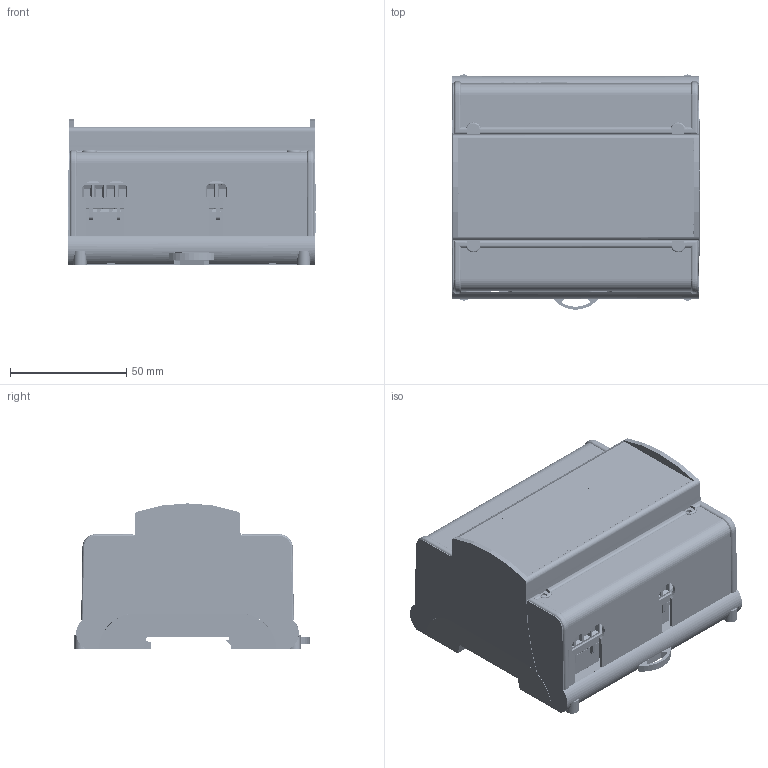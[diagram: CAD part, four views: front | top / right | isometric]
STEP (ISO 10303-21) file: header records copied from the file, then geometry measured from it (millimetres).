
FILE_DESCRIPTION(/* description */ (''),/* implementation_level */ '2;1');
FILE_NAME(/* name */ 'C:/Temp/STEP/multiLINK_V131.step',/* time_stamp */ '2020-04-03T14:09:29+03:00',/* author */ (''),/* organization */ (''),/* preprocessor_version */ 'ST-DEVELOPER v18',/* originating_system */ 'Autodesk Translation Framework v8.12.0.6',/* authorisation */ '');
FILE_SCHEMA (('AUTOMOTIVE_DESIGN { 1 0 10303 214 3 1 1 }'));
Products named in the file (1): multiLINK_V131
Bounding box: 106.82 x 101.19 x 62.54 mm (x, y, z)
Volume: 108149 mm3; surface area: 152885.4 mm2
Topology: 421 solids, 422 shells, 17151 faces, 48047 edges, 31823 vertices
Faces by surface type: cylinder 12202, plane 4764, bspline 119, sphere 34, cone 24, torus 8
Full cylindrical faces by diameter (mm): 0.3 x4, 0.434 x2, 0.457 x2, 0.5 x16, 0.75 x2, 0.8 x2, 1.4 x20, 1.5 x12, 2 x8, 2.2 x4, 2.4 x8, 2.518 x1, 2.8 x8, 3.783 x6, 4 x6, 4.4 x4
Entity records: 594130 total; most frequent: CARTESIAN_POINT 110765, DIRECTION 106403, ORIENTED_EDGE 96053, EDGE_CURVE 48029, AXIS2_PLACEMENT_3D 41646, VERTEX_POINT 31823, CIRCLE 24469, LINE 23111
